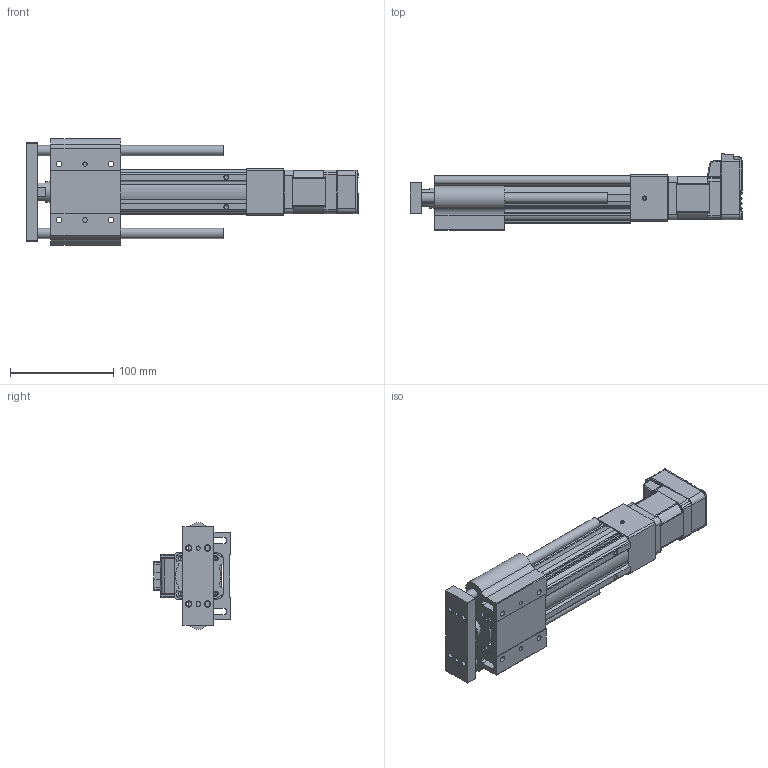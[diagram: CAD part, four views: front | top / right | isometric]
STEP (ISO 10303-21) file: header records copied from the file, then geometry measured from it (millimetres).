
FILE_DESCRIPTION (( 'STEP AP214' ), '1' );
FILE_NAME ('LEYG3(+)-25LDNM1□-100-17L.STEP', '2023-04-10T04:35:41', ( '' ), ( '' ), 'SwSTEP 2.0', 'SolidWorks 2019', '' );
FILE_SCHEMA (( 'AUTOMOTIVE_DESIGN' ));
Length unit declared in the file: millimetre
Products named in the file (6): CM3(+)-17L50A; LEYG3(+)-25□DNM1_MOTOR Flange; LEYG3(+)-25NM1?_BODY_100; LEYG3(+)-25LDNM1□-100-17L; LEYG3(+)-25LNM1?_ROD_100; LEYG3(+)-25LNM1□_ATTACH_100
Assembly tree (5 placements, depth 2):
  LEYG3(+)-25LDNM1□-100-17L
    LEYG3(+)-25NM1?_BODY_100
    LEYG3(+)-25LNM1?_ROD_100
    LEYG3(+)-25LNM1□_ATTACH_100
    LEYG3(+)-25□DNM1_MOTOR Flange
    CM3(+)-17L50A
Bounding box: 320.8 x 73.55 x 103 mm (x, y, z)
Volume: 700018.5 mm3; surface area: 158225.2 mm2
Topology: 5 solids, 5 shells, 940 faces, 2388 edges, 1501 vertices
Faces by surface type: plane 499, cylinder 272, cone 90, bspline 29, torus 29, sphere 21
Full cylindrical faces by diameter (mm): 2.5 x4, 3.5 x4, 4 x2, 4.2 x2, 4.9 x4, 5 x1, 5.4 x4, 8 x1, 10 x2, 11 x1, 22 x1, 33 x1
Entity records: 38867 total; most frequent: CARTESIAN_POINT 6846, ORIENTED_EDGE 4620, DIRECTION 4489, EDGE_CURVE 2310, AXIS2_PLACEMENT_3D 1502, VERTEX_POINT 1494, LINE 1485, VECTOR 1485
